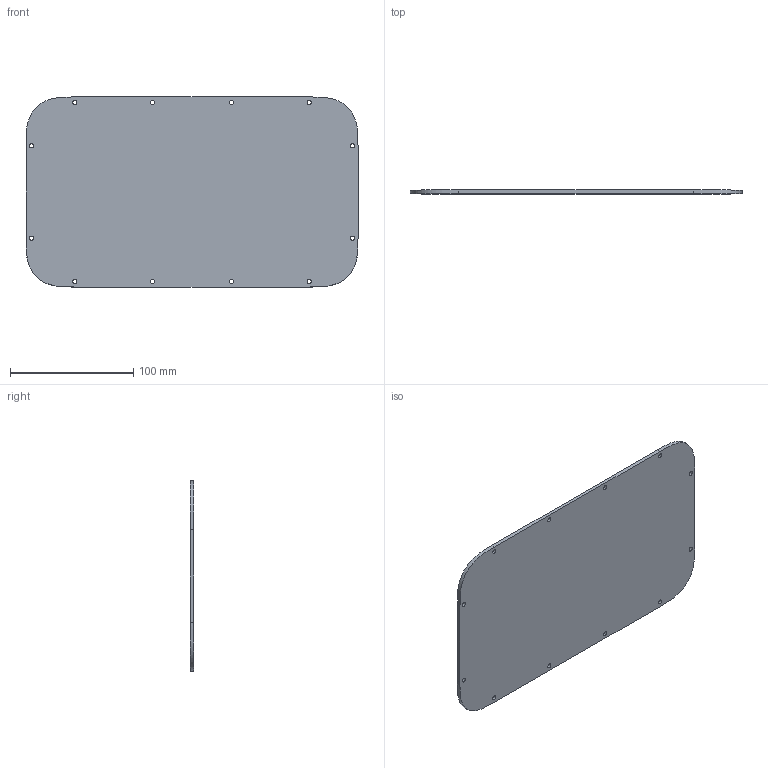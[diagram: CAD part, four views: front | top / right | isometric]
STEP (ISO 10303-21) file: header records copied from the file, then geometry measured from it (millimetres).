
FILE_DESCRIPTION(/* description */ (''),/* implementation_level */ '2;1');
FILE_NAME(/* name */ 'LATERAL PANEL.step',/* time_stamp */ '2024-02-28T17:17:56Z',/* author */ (''),/* organization */ (''),/* preprocessor_version */ 'ST-DEVELOPER v20',/* originating_system */ 'Autodesk Translation Framework v12.20.1.177',/* authorisation */ '');
FILE_SCHEMA (('AUTOMOTIVE_DESIGN { 1 0 10303 214 3 1 1 }'));
Length unit declared in the file: millimetre
Products named in the file (1): LATERAL PANEL
Bounding box: 269 x 3 x 154 mm (x, y, z)
Volume: 121666.2 mm3; surface area: 83886 mm2
Topology: 1 solids, 1 shells, 22 faces, 60 edges, 40 vertices
Faces by surface type: cylinder 12, plane 6, bspline 4
Full cylindrical faces by diameter (mm): 3.5 x12
Entity records: 1060 total; most frequent: CARTESIAN_POINT 415, ORIENTED_EDGE 120, DIRECTION 114, EDGE_CURVE 60, EDGE_LOOP 46, AXIS2_PLACEMENT_3D 43, VERTEX_POINT 40, LINE 28
